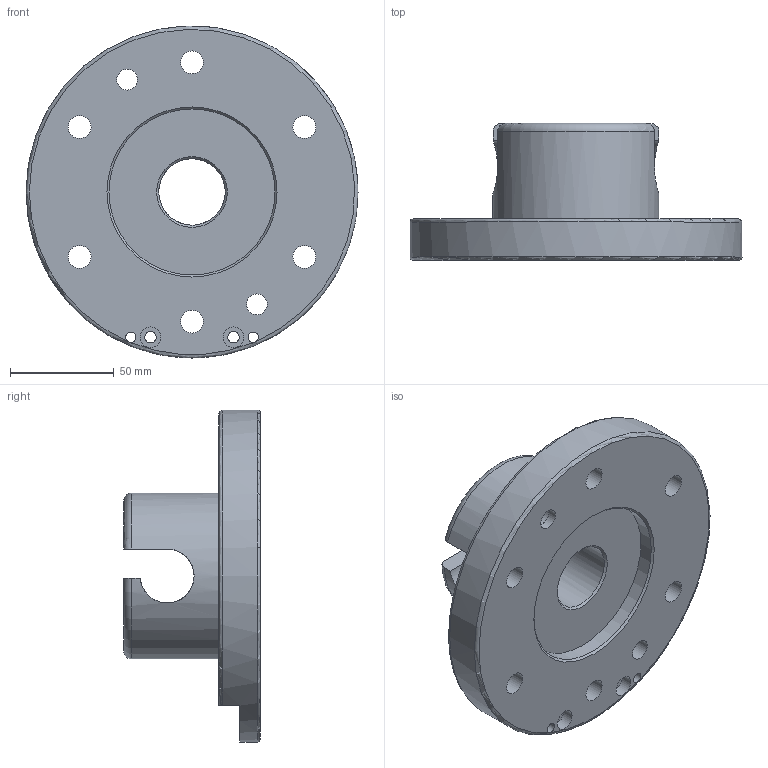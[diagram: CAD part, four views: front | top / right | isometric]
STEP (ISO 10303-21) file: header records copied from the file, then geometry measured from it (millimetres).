
FILE_DESCRIPTION(/* description */ ('G-SWS160-Unterteil'),/* implementation_level */ '2;1');
FILE_NAME(/* name */ '\\dc01\daten\CAD\Standard\Daten\3D-Datenbank\SWS\4 - 3D-CAD-Daten SWS 050-160\SWS160\step-Daten\G-SWS160-2UE.stp',/* time_stamp */ '2016-02-24T15:16:40+01:00',/* author */ ('ysplieth'),/* organization */ ('GRIP GmbH'),/* preprocessor_version */ 'ST-DEVELOPER v15.2',/* originating_system */ 'Autodesk Inventor 2014',/* authorisation */ '');
FILE_SCHEMA (('CONFIG_CONTROL_DESIGN'));
Length unit declared in the file: millimetre
Products named in the file (1): G-SWS160-4.4-1
Bounding box: 160 x 66 x 160 mm (x, y, z)
Volume: 473103.2 mm3; surface area: 73448 mm2
Topology: 1 solids, 1 shells, 57 faces, 143 edges, 94 vertices
Faces by surface type: cylinder 27, plane 20, cone 6, torus 4
Full cylindrical faces by diameter (mm): 5 x2, 5.5 x2, 10 x4, 11 x6, 12.1 x1, 18 x6, 32 x1, 80 x2, 160 x1
Entity records: 1770 total; most frequent: CARTESIAN_POINT 479, DIRECTION 268, ORIENTED_EDGE 208, AXIS2_PLACEMENT_3D 122, EDGE_LOOP 119, EDGE_CURVE 104, VERTEX_POINT 85, FACE_BOUND 64
